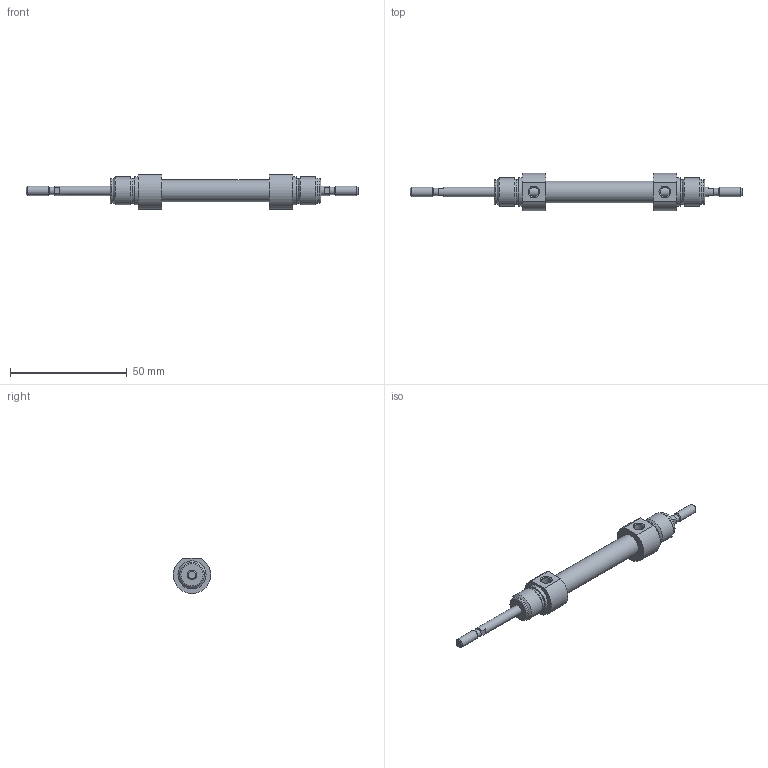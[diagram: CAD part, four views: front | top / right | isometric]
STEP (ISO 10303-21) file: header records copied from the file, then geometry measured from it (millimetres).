
FILE_DESCRIPTION( ( 'STEP AP203' ), '1' );
FILE_NAME( '//expscmdclustefs.cadenas.external/client_exchange/iodir/jobs/output/wkb68260536_no0/STEP/M101-08-0020--__0__2_03.stp', ' ', ( ' ' ), ( ' ' ), 'PSStep 15.0.47', 'PARTsolutions', ' ' );
FILE_SCHEMA( ( 'CONFIG_CONTROL_DESIGN' ) );
Length unit declared in the file: millimetre
Products named in the file (3): M101-08-0020-- [0]; HI_M101-08-0020---[0]-z; HI_M101-08-0020---[0]-k
Assembly tree (2 placements, depth 2):
  M101-08-0020-- [0]
    HI_M101-08-0020---[0]-z
    HI_M101-08-0020---[0]-k
Bounding box: 142 x 15.98 x 14.97 mm (x, y, z)
Volume: 9307.5 mm3; surface area: 7392.3 mm2
Topology: 2 solids, 2 shells, 71 faces, 145 edges, 88 vertices
Faces by surface type: plane 32, cylinder 23, cone 14, torus 2
Full cylindrical faces by diameter (mm): 3.141 x2, 4 x6, 4.134 x2, 8 x2, 9.3 x1, 10.466 x4, 12 x4
Entity records: 1838 total; most frequent: CARTESIAN_POINT 358, DIRECTION 312, ORIENTED_EDGE 212, AXIS2_PLACEMENT_3D 140, EDGE_LOOP 120, EDGE_CURVE 106, FACE_OUTER_BOUND 94, VERTEX_POINT 82
